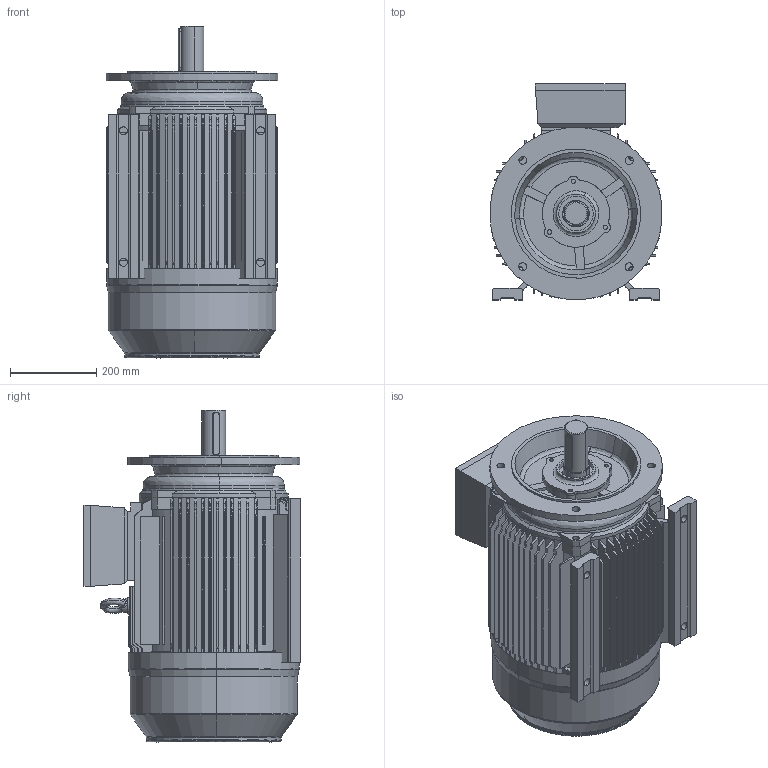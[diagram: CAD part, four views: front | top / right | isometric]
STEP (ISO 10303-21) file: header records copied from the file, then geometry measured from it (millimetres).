
FILE_DESCRIPTION (( 'STEP AP214' ), '1' );
FILE_NAME ('M3-200L-FF_B35.STEP', '2019-03-07T08:50:14', ( '' ), ( '' ), 'SwSTEP 2.0', 'SolidWorks 2012', '' );
FILE_SCHEMA (( 'AUTOMOTIVE_DESIGN' ));
Length unit declared in the file: millimetre
Products named in the file (9): Gehäuse-200L; ﾍﾟｦｰ+ｳ_-ｼ+､; Plain parallel keys_GB_CONNECTING_PIECE_KEYS_CSK 16X100; ﾍﾟYE3-200L-4.6.8C+ﾎA+ｳ_-ｼ+､; MN2-200ﾀiﾍ_-ｼ+､; BG200-Flansch B5; Y2-200-4.6.8Ã¦Íß¦ð-Ô©Ã_-¼+¤; Eyebolts GB_GB_FASTENER_SCREWS_FRS M16-N; M3-200L-FF_B35
Assembly tree (8 placements, depth 3):
  M3-200L-FF_B35
    Eyebolts GB_GB_FASTENER_SCREWS_FRS M16-N
    Y2-200-4.6.8Ã¦Íß¦ð-Ô©Ã_-¼+¤
    BG200-Flansch B5
    MN2-200ﾀiﾍ_-ｼ+､
    ﾍﾟｦｰ+ｳ_-ｼ+､
      ﾍﾟYE3-200L-4.6.8C+ﾎA+ｳ_-ｼ+､
      Plain parallel keys_GB_CONNECTING_PIECE_KEYS_CSK 16X100
    Gehäuse-200L
Bounding box: 398.58 x 501 x 769.84 mm (x, y, z)
Volume: 18981472.8 mm3; surface area: 3587772.3 mm2
Topology: 7 solids, 7 shells, 957 faces, 2523 edges, 1646 vertices
Faces by surface type: cylinder 335, plane 322, cone 230, bspline 70
Entity records: 37372 total; most frequent: CARTESIAN_POINT 13864, ORIENTED_EDGE 5046, DIRECTION 4598, EDGE_CURVE 2523, AXIS2_PLACEMENT_3D 1774, VERTEX_POINT 1646, EDGE_LOOP 1085, LINE 1050
